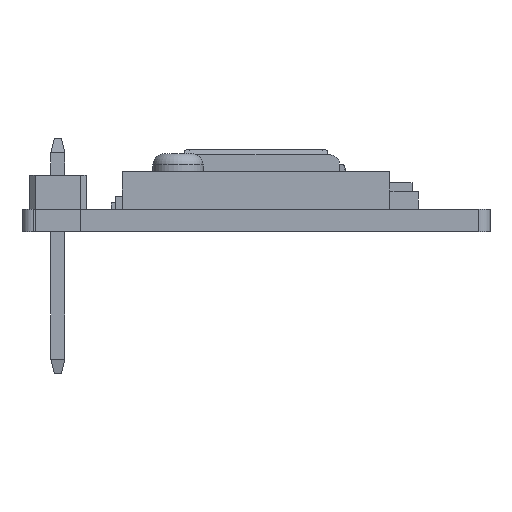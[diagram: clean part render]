
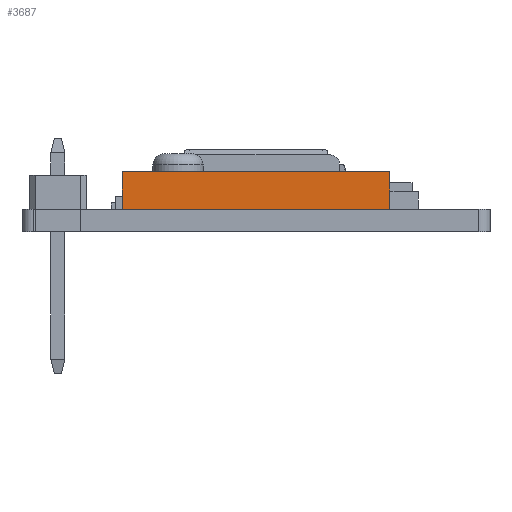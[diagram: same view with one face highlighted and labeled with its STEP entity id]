
A CAD part, front view. The second image highlights one B-rep face of the part: STEP entity #3687.
In plain terms, the highlighted planar face has unit normal (0, -1, 0).
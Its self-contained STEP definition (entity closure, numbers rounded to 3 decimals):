
#13=DIRECTION('',(0.,0.,1.));
#14=DIRECTION('',(1.,0.,-0.));
#44=VECTOR('',#13,1.);
#51=DIRECTION('',(0.,1.,0.));
#70=VECTOR('',#14,1.);
#1242=VERTEX_POINT('',#1243);
#1243=CARTESIAN_POINT('',(-6.,-17.3,1.));
#1254=VERTEX_POINT('',#1255);
#1255=CARTESIAN_POINT('',(6.,-17.3,1.));
#1257=ORIENTED_EDGE('',*,*,#1258,.F.);
#1258=EDGE_CURVE('',#1242,#1254,#1259,.T.);
#1259=LINE('',#1243,#70);
#3673=EDGE_CURVE('',#1242,#3674,#3676,.T.);
#3674=VERTEX_POINT('',#3675);
#3675=CARTESIAN_POINT('',(-6.,-17.3,2.7));
#3676=LINE('',#1243,#44);
#3687=ADVANCED_FACE('',(#3688),#3699,.F.);
#3688=FACE_BOUND('',#3689,.F.);
#3689=EDGE_LOOP('',(#1257,#3690,#3691,#3696));
#3690=ORIENTED_EDGE('',*,*,#3673,.T.);
#3691=ORIENTED_EDGE('',*,*,#3692,.T.);
#3692=EDGE_CURVE('',#3674,#3693,#3695,.T.);
#3693=VERTEX_POINT('',#3694);
#3694=CARTESIAN_POINT('',(6.,-17.3,2.7));
#3695=LINE('',#3675,#70);
#3696=ORIENTED_EDGE('',*,*,#3697,.F.);
#3697=EDGE_CURVE('',#1254,#3693,#3698,.T.);
#3698=LINE('',#1255,#44);
#3699=PLANE('',#3700);
#3700=AXIS2_PLACEMENT_3D('',#1243,#51,#13);
